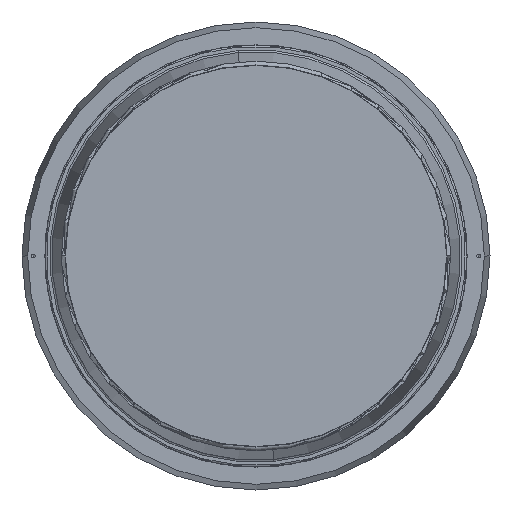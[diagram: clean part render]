
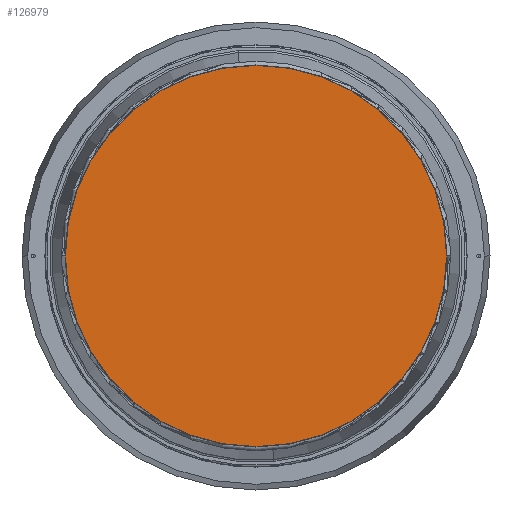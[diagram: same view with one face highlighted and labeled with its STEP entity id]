
A CAD part, front view. The second image highlights one B-rep face of the part: STEP entity #126979.
In plain terms, the highlighted planar face has unit normal (0, -1, 0).
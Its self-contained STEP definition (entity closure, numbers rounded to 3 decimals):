
#1667 = AXIS2_PLACEMENT_3D ( 'NONE', #24354, #120214, #38162 ) ;
#2542 = EDGE_CURVE ( 'NONE', #165205, #13713, #171054, .T. ) ;
#13713 = VERTEX_POINT ( 'NONE', #176403 ) ;
#24354 = CARTESIAN_POINT ( 'NONE',  ( -0.936, 0., 0. ) ) ;
#29122 = CIRCLE ( 'NONE', #1667, 500.958 ) ;
#36279 = PLANE ( 'NONE',  #162279 ) ;
#38162 = DIRECTION ( 'NONE',  ( 0., 0., 1. ) ) ;
#52406 = DIRECTION ( 'NONE',  ( 0., -1., 0. ) ) ;
#58863 = FACE_OUTER_BOUND ( 'NONE', #177783, .T. ) ;
#68258 = CARTESIAN_POINT ( 'NONE',  ( -501.894, 0., 0. ) ) ;
#77302 = DIRECTION ( 'NONE',  ( 0., -1., 0. ) ) ;
#98138 = ORIENTED_EDGE ( 'NONE', *, *, #162765, .T. ) ;
#120214 = DIRECTION ( 'NONE',  ( 0., -1., 0. ) ) ;
#126979 = ADVANCED_FACE ( 'NONE', ( #58863 ), #36279, .T. ) ;
#134520 = CARTESIAN_POINT ( 'NONE',  ( -502.979, 0., -500000. ) ) ;
#148264 = DIRECTION ( 'NONE',  ( 0., 0., -1. ) ) ;
#149134 = AXIS2_PLACEMENT_3D ( 'NONE', #159335, #77302, #173044 ) ;
#159335 = CARTESIAN_POINT ( 'NONE',  ( -0.936, 0., 0. ) ) ;
#162279 = AXIS2_PLACEMENT_3D ( 'NONE', #134520, #52406, #148264 ) ;
#162765 = EDGE_CURVE ( 'NONE', #13713, #165205, #29122, .T. ) ;
#165205 = VERTEX_POINT ( 'NONE', #68258 ) ;
#171054 = CIRCLE ( 'NONE', #149134, 500.958 ) ;
#173044 = DIRECTION ( 'NONE',  ( 0., 0., 1. ) ) ;
#176102 = ORIENTED_EDGE ( 'NONE', *, *, #2542, .T. ) ;
#176403 = CARTESIAN_POINT ( 'NONE',  ( 500.021, 0., 0. ) ) ;
#177783 = EDGE_LOOP ( 'NONE', ( #98138, #176102 ) ) ;
